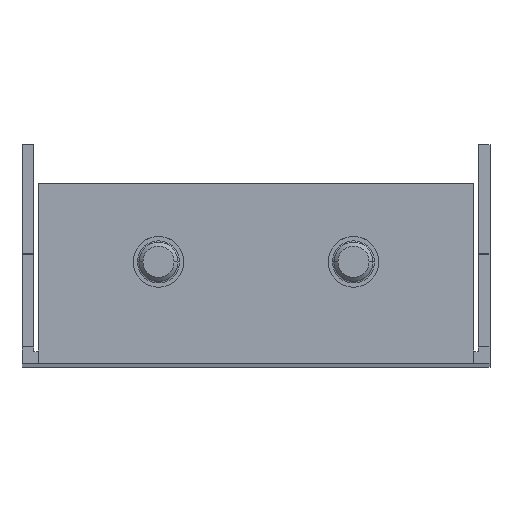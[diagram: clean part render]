
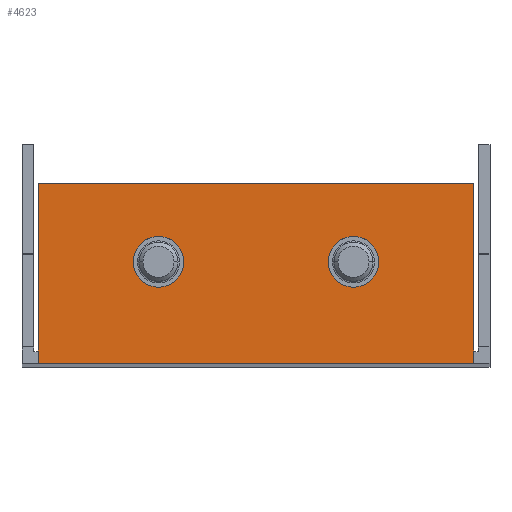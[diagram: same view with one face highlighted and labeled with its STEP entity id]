
A CAD part, top view. The second image highlights one B-rep face of the part: STEP entity #4623.
In plain terms, the highlighted planar face has unit normal (0, 0, 1).
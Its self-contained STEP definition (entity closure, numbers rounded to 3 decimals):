
#1234 = VERTEX_POINT('',#1235);
#1235 = CARTESIAN_POINT('',(-9.25,13.,144.5));
#1241 = EDGE_CURVE('',#1242,#1234,#1244,.T.);
#1242 = VERTEX_POINT('',#1243);
#1243 = CARTESIAN_POINT('',(-15.75,13.,144.5));
#1244 = CIRCLE('',#1245,3.25);
#1245 = AXIS2_PLACEMENT_3D('',#1246,#1247,#1248);
#1246 = CARTESIAN_POINT('',(-12.5,13.,144.5));
#1247 = DIRECTION('',(0.,0.,1.));
#1248 = DIRECTION('',(1.,0.,-0.));
#1276 = VERTEX_POINT('',#1277);
#1277 = CARTESIAN_POINT('',(15.75,13.,144.5));
#1283 = EDGE_CURVE('',#1284,#1276,#1286,.T.);
#1284 = VERTEX_POINT('',#1285);
#1285 = CARTESIAN_POINT('',(9.25,13.,144.5));
#1286 = CIRCLE('',#1287,3.25);
#1287 = AXIS2_PLACEMENT_3D('',#1288,#1289,#1290);
#1288 = CARTESIAN_POINT('',(12.5,13.,144.5));
#1289 = DIRECTION('',(0.,0.,1.));
#1290 = DIRECTION('',(-1.,0.,0.));
#2845 = VERTEX_POINT('',#2846);
#2846 = CARTESIAN_POINT('',(-27.9,0.,144.5));
#2916 = VERTEX_POINT('',#2917);
#2917 = CARTESIAN_POINT('',(27.9,0.,144.5));
#2923 = EDGE_CURVE('',#2845,#2916,#2924,.T.);
#2924 = LINE('',#2925,#2926);
#2925 = CARTESIAN_POINT('',(-30.,0.,144.5));
#2926 = VECTOR('',#2927,1.);
#2927 = DIRECTION('',(1.,0.,0.));
#4502 = VERTEX_POINT('',#4503);
#4503 = CARTESIAN_POINT('',(-27.9,2.1,144.5));
#4518 = EDGE_CURVE('',#4502,#2845,#4519,.T.);
#4519 = LINE('',#4520,#4521);
#4520 = CARTESIAN_POINT('',(-27.9,2.1,144.5));
#4521 = VECTOR('',#4522,1.);
#4522 = DIRECTION('',(0.,-1.,0.));
#4542 = VERTEX_POINT('',#4543);
#4543 = CARTESIAN_POINT('',(27.9,2.1,144.5));
#4549 = EDGE_CURVE('',#4542,#2916,#4550,.T.);
#4550 = LINE('',#4551,#4552);
#4551 = CARTESIAN_POINT('',(27.9,0.,144.5));
#4552 = VECTOR('',#4553,1.);
#4553 = DIRECTION('',(-0.,-1.,-0.));
#4575 = VERTEX_POINT('',#4576);
#4576 = CARTESIAN_POINT('',(27.9,23.,144.5));
#4582 = EDGE_CURVE('',#4542,#4575,#4583,.T.);
#4583 = LINE('',#4584,#4585);
#4584 = CARTESIAN_POINT('',(27.9,0.,144.5));
#4585 = VECTOR('',#4586,1.);
#4586 = DIRECTION('',(0.,1.,0.));
#4597 = EDGE_CURVE('',#4598,#4502,#4600,.T.);
#4598 = VERTEX_POINT('',#4599);
#4599 = CARTESIAN_POINT('',(-27.9,23.,144.5));
#4600 = LINE('',#4601,#4602);
#4601 = CARTESIAN_POINT('',(-27.9,0.,144.5));
#4602 = VECTOR('',#4603,1.);
#4603 = DIRECTION('',(0.,-1.,0.));
#4623 = ADVANCED_FACE('',(#4624,#4634,#4644),#4657,.F.);
#4624 = FACE_BOUND('',#4625,.T.);
#4625 = EDGE_LOOP('',(#4626,#4633));
#4626 = ORIENTED_EDGE('',*,*,#4627,.F.);
#4627 = EDGE_CURVE('',#1234,#1242,#4628,.T.);
#4628 = CIRCLE('',#4629,3.25);
#4629 = AXIS2_PLACEMENT_3D('',#4630,#4631,#4632);
#4630 = CARTESIAN_POINT('',(-12.5,13.,144.5));
#4631 = DIRECTION('',(0.,0.,1.));
#4632 = DIRECTION('',(1.,0.,-0.));
#4633 = ORIENTED_EDGE('',*,*,#1241,.F.);
#4634 = FACE_BOUND('',#4635,.T.);
#4635 = EDGE_LOOP('',(#4636,#4643));
#4636 = ORIENTED_EDGE('',*,*,#4637,.F.);
#4637 = EDGE_CURVE('',#1276,#1284,#4638,.T.);
#4638 = CIRCLE('',#4639,3.25);
#4639 = AXIS2_PLACEMENT_3D('',#4640,#4641,#4642);
#4640 = CARTESIAN_POINT('',(12.5,13.,144.5));
#4641 = DIRECTION('',(0.,0.,1.));
#4642 = DIRECTION('',(-1.,0.,0.));
#4643 = ORIENTED_EDGE('',*,*,#1283,.F.);
#4644 = FACE_BOUND('',#4645,.T.);
#4645 = EDGE_LOOP('',(#4646,#4647,#4648,#4649,#4650,#4651));
#4646 = ORIENTED_EDGE('',*,*,#4597,.T.);
#4647 = ORIENTED_EDGE('',*,*,#4518,.T.);
#4648 = ORIENTED_EDGE('',*,*,#2923,.T.);
#4649 = ORIENTED_EDGE('',*,*,#4549,.F.);
#4650 = ORIENTED_EDGE('',*,*,#4582,.T.);
#4651 = ORIENTED_EDGE('',*,*,#4652,.T.);
#4652 = EDGE_CURVE('',#4575,#4598,#4653,.T.);
#4653 = LINE('',#4654,#4655);
#4654 = CARTESIAN_POINT('',(0.,23.,144.5));
#4655 = VECTOR('',#4656,1.);
#4656 = DIRECTION('',(-1.,0.,0.));
#4657 = PLANE('',#4658);
#4658 = AXIS2_PLACEMENT_3D('',#4659,#4660,#4661);
#4659 = CARTESIAN_POINT('',(0.,0.,144.5));
#4660 = DIRECTION('',(0.,0.,-1.));
#4661 = DIRECTION('',(-1.,0.,-0.));
